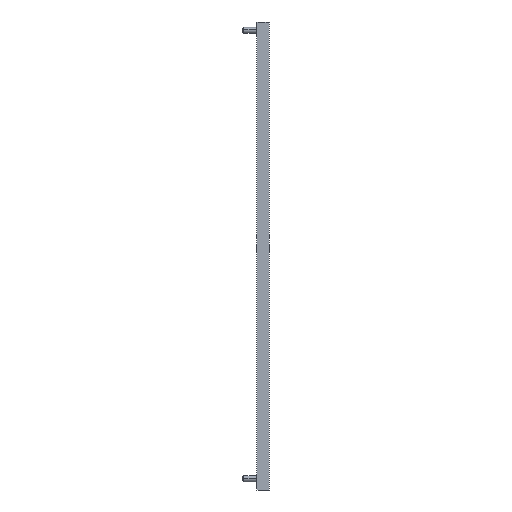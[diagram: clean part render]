
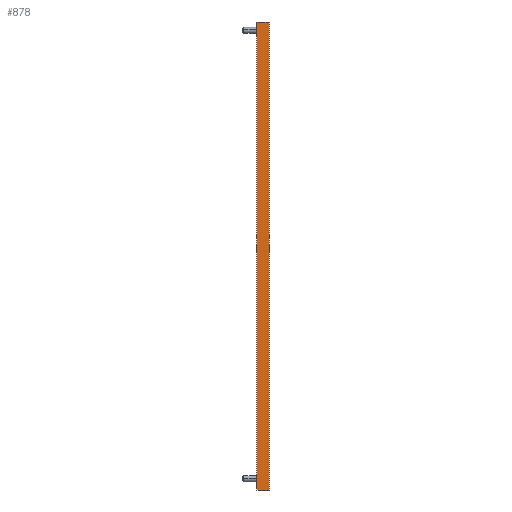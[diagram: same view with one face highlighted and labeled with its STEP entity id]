
A CAD part, left-side view. The second image highlights one B-rep face of the part: STEP entity #878.
In plain terms, the highlighted planar face has unit normal (-1, 0, 0).
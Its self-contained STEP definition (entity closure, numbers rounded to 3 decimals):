
#195 = CARTESIAN_POINT ( 'NONE',  ( -8., 0., 479. ) ) ;
#267 = VERTEX_POINT ( 'NONE', #1528 ) ;
#345 = CARTESIAN_POINT ( 'NONE',  ( -8., 0., 0. ) ) ;
#346 = DIRECTION ( 'NONE',  ( 0., 0., 1. ) ) ;
#373 = ORIENTED_EDGE ( 'NONE', *, *, #2986, .T. ) ;
#385 = EDGE_CURVE ( 'NONE', #665, #1842, #1054, .T. ) ;
#445 = DIRECTION ( 'NONE',  ( 0., -1., 0. ) ) ;
#460 = LINE ( 'NONE', #1452, #840 ) ;
#487 = ORIENTED_EDGE ( 'NONE', *, *, #385, .T. ) ;
#527 = VECTOR ( 'NONE', #2993, 1000. ) ;
#540 = AXIS2_PLACEMENT_3D ( 'NONE', #2448, #2210, #1938 ) ;
#665 = VERTEX_POINT ( 'NONE', #3179 ) ;
#827 = EDGE_CURVE ( 'NONE', #1628, #267, #2969, .T. ) ;
#836 = VECTOR ( 'NONE', #2340, 1000. ) ;
#840 = VECTOR ( 'NONE', #2466, 1000. ) ;
#851 = EDGE_CURVE ( 'NONE', #267, #1279, #948, .T. ) ;
#878 = ADVANCED_FACE ( 'NONE', ( #1437 ), #2242, .T. ) ;
#909 = VERTEX_POINT ( 'NONE', #3227 ) ;
#928 = VECTOR ( 'NONE', #346, 1000. ) ;
#948 = LINE ( 'NONE', #2690, #3016 ) ;
#1054 = LINE ( 'NONE', #2043, #928 ) ;
#1077 = DIRECTION ( 'NONE',  ( 0., -1., 0. ) ) ;
#1106 = CARTESIAN_POINT ( 'NONE',  ( -8., 0., 479. ) ) ;
#1131 = ORIENTED_EDGE ( 'NONE', *, *, #1135, .T. ) ;
#1135 = EDGE_CURVE ( 'NONE', #1827, #1279, #1203, .T. ) ;
#1188 = CARTESIAN_POINT ( 'NONE',  ( -8., 0., 479. ) ) ;
#1203 = LINE ( 'NONE', #195, #2795 ) ;
#1256 = VECTOR ( 'NONE', #1077, 1000. ) ;
#1279 = VERTEX_POINT ( 'NONE', #2807 ) ;
#1357 = ORIENTED_EDGE ( 'NONE', *, *, #827, .F. ) ;
#1392 = ORIENTED_EDGE ( 'NONE', *, *, #2093, .T. ) ;
#1437 = FACE_OUTER_BOUND ( 'NONE', #2542, .T. ) ;
#1452 = CARTESIAN_POINT ( 'NONE',  ( -8., 0., 0. ) ) ;
#1502 = CARTESIAN_POINT ( 'NONE',  ( -8., 12.5, 479. ) ) ;
#1528 = CARTESIAN_POINT ( 'NONE',  ( -8., 12.5, 479. ) ) ;
#1628 = VERTEX_POINT ( 'NONE', #2269 ) ;
#1650 = EDGE_CURVE ( 'NONE', #909, #665, #3248, .T. ) ;
#1723 = DIRECTION ( 'NONE',  ( 0., 0., 1. ) ) ;
#1827 = VERTEX_POINT ( 'NONE', #1890 ) ;
#1842 = VERTEX_POINT ( 'NONE', #1106 ) ;
#1890 = CARTESIAN_POINT ( 'NONE',  ( -8., 3.2, 479. ) ) ;
#1937 = EDGE_CURVE ( 'NONE', #1842, #1827, #2759, .T. ) ;
#1938 = DIRECTION ( 'NONE',  ( 0., 0., 1. ) ) ;
#1955 = ORIENTED_EDGE ( 'NONE', *, *, #1937, .T. ) ;
#2043 = CARTESIAN_POINT ( 'NONE',  ( -8., 0., 479. ) ) ;
#2093 = EDGE_CURVE ( 'NONE', #3183, #909, #2360, .T. ) ;
#2117 = CARTESIAN_POINT ( 'NONE',  ( -8., 9.3, 0. ) ) ;
#2159 = VECTOR ( 'NONE', #1723, 1000. ) ;
#2210 = DIRECTION ( 'NONE',  ( -1., 0., 0. ) ) ;
#2242 = PLANE ( 'NONE',  #540 ) ;
#2269 = CARTESIAN_POINT ( 'NONE',  ( -8., 12.5, 0. ) ) ;
#2340 = DIRECTION ( 'NONE',  ( 0., -1., 0. ) ) ;
#2360 = LINE ( 'NONE', #2945, #836 ) ;
#2448 = CARTESIAN_POINT ( 'NONE',  ( -8., 0., 479. ) ) ;
#2466 = DIRECTION ( 'NONE',  ( 0., -1., 0. ) ) ;
#2542 = EDGE_LOOP ( 'NONE', ( #1357, #373, #1392, #3158, #487, #1955, #1131, #2960 ) ) ;
#2690 = CARTESIAN_POINT ( 'NONE',  ( -8., 12.5, 479. ) ) ;
#2720 = DIRECTION ( 'NONE',  ( 0., 1., 0. ) ) ;
#2759 = LINE ( 'NONE', #1188, #527 ) ;
#2795 = VECTOR ( 'NONE', #2720, 1000. ) ;
#2807 = CARTESIAN_POINT ( 'NONE',  ( -8., 9.3, 479. ) ) ;
#2945 = CARTESIAN_POINT ( 'NONE',  ( -8., 0., 0. ) ) ;
#2960 = ORIENTED_EDGE ( 'NONE', *, *, #851, .F. ) ;
#2969 = LINE ( 'NONE', #1502, #2159 ) ;
#2986 = EDGE_CURVE ( 'NONE', #1628, #3183, #460, .T. ) ;
#2993 = DIRECTION ( 'NONE',  ( 0., 1., 0. ) ) ;
#3016 = VECTOR ( 'NONE', #445, 1000. ) ;
#3158 = ORIENTED_EDGE ( 'NONE', *, *, #1650, .T. ) ;
#3179 = CARTESIAN_POINT ( 'NONE',  ( -8., 0., 0. ) ) ;
#3183 = VERTEX_POINT ( 'NONE', #2117 ) ;
#3227 = CARTESIAN_POINT ( 'NONE',  ( -8., 3.2, 0. ) ) ;
#3248 = LINE ( 'NONE', #345, #1256 ) ;
